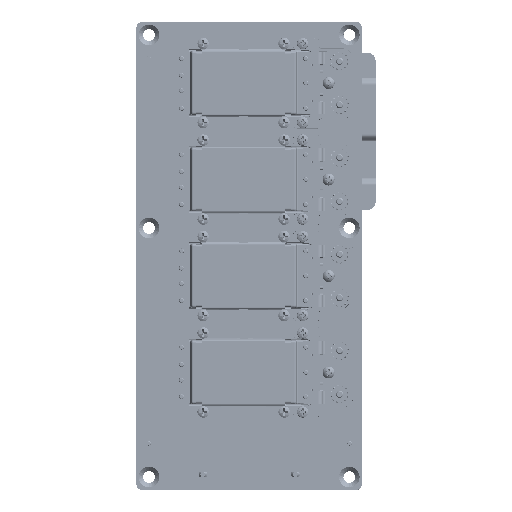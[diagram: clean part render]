
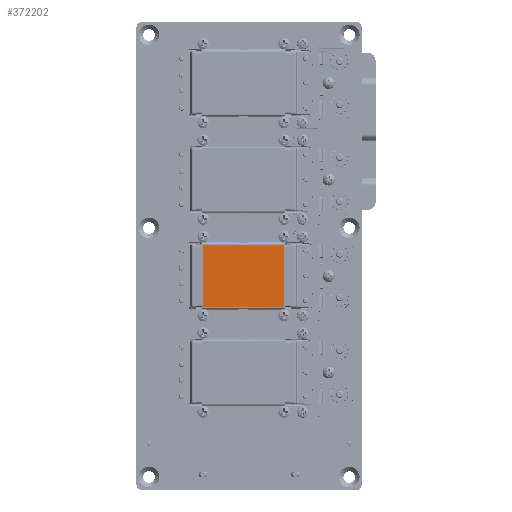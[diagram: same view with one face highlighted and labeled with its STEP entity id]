
A CAD part, top view. The second image highlights one B-rep face of the part: STEP entity #372202.
In plain terms, the highlighted planar face has unit normal (0, 0, 1).
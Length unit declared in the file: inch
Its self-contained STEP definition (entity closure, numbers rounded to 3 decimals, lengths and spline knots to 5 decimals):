
#41561 = AXIS2_PLACEMENT_3D ( 'NONE', #57493, #57496, #57499 ) ;
#57491 = PLANE ( 'NONE',  #41561 ) ;
#57493 = CARTESIAN_POINT ( 'NONE',  ( 6.1645, -5.97302, 0.71545 ) ) ;
#57496 = DIRECTION ( 'NONE',  ( 0., 0., 1. ) ) ;
#57499 = DIRECTION ( 'NONE',  ( 0., 1., 0. ) ) ;
#62676 = FACE_OUTER_BOUND ( 'NONE', #472848, .T. ) ;
#268762 = CARTESIAN_POINT ( 'NONE',  ( -2.55196, 0.17833, 0.71545 ) ) ;
#268765 = CARTESIAN_POINT ( 'NONE',  ( -1.24806, 0.17833, 0.71545 ) ) ;
#268767 = CARTESIAN_POINT ( 'NONE',  ( -2.55196, -0.82467, 0.71545 ) ) ;
#268771 = CARTESIAN_POINT ( 'NONE',  ( -1.24806, -0.82467, 0.71545 ) ) ;
#372202 = ADVANCED_FACE ( 'NONE', ( #62676 ), #57491, .T. ) ;
#386322 = VERTEX_POINT ( 'NONE', #268762 ) ;
#386324 = VERTEX_POINT ( 'NONE', #268765 ) ;
#386330 = VERTEX_POINT ( 'NONE', #268767 ) ;
#386332 = VERTEX_POINT ( 'NONE', #268771 ) ;
#436515 = VECTOR ( 'NONE', #445098, 39.37008 ) ;
#436529 = VECTOR ( 'NONE', #445110, 39.37008 ) ;
#436552 = VECTOR ( 'NONE', #445129, 39.37008 ) ;
#436565 = VECTOR ( 'NONE', #445137, 39.37008 ) ;
#437452 = EDGE_CURVE ( 'NONE', #386330, #386322, #448301, .T. ) ;
#437459 = EDGE_CURVE ( 'NONE', #386322, #386324, #448308, .T. ) ;
#437474 = EDGE_CURVE ( 'NONE', #386332, #386330, #448314, .T. ) ;
#437482 = EDGE_CURVE ( 'NONE', #386324, #386332, #448324, .T. ) ;
#445096 = CARTESIAN_POINT ( 'NONE',  ( -2.55196, 0.17833, 0.71545 ) ) ;
#445098 = DIRECTION ( 'NONE',  ( 0., 1., 0. ) ) ;
#445108 = CARTESIAN_POINT ( 'NONE',  ( -1.24806, 0.17833, 0.71545 ) ) ;
#445110 = DIRECTION ( 'NONE',  ( 1., 0., 0. ) ) ;
#445125 = CARTESIAN_POINT ( 'NONE',  ( -2.55196, -0.82467, 0.71545 ) ) ;
#445129 = DIRECTION ( 'NONE',  ( -1., 0., 0. ) ) ;
#445136 = CARTESIAN_POINT ( 'NONE',  ( -1.24806, -0.82467, 0.71545 ) ) ;
#445137 = DIRECTION ( 'NONE',  ( 0., -1., 0. ) ) ;
#448301 = LINE ( 'NONE', #445096, #436515 ) ;
#448308 = LINE ( 'NONE', #445108, #436529 ) ;
#448314 = LINE ( 'NONE', #445125, #436552 ) ;
#448324 = LINE ( 'NONE', #445136, #436565 ) ;
#453616 = ORIENTED_EDGE ( 'NONE', *, *, #437459, .F. ) ;
#453620 = ORIENTED_EDGE ( 'NONE', *, *, #437474, .F. ) ;
#453622 = ORIENTED_EDGE ( 'NONE', *, *, #437452, .F. ) ;
#453625 = ORIENTED_EDGE ( 'NONE', *, *, #437482, .F. ) ;
#472848 = EDGE_LOOP ( 'NONE', ( #453616, #453622, #453620, #453625 ) ) ;
